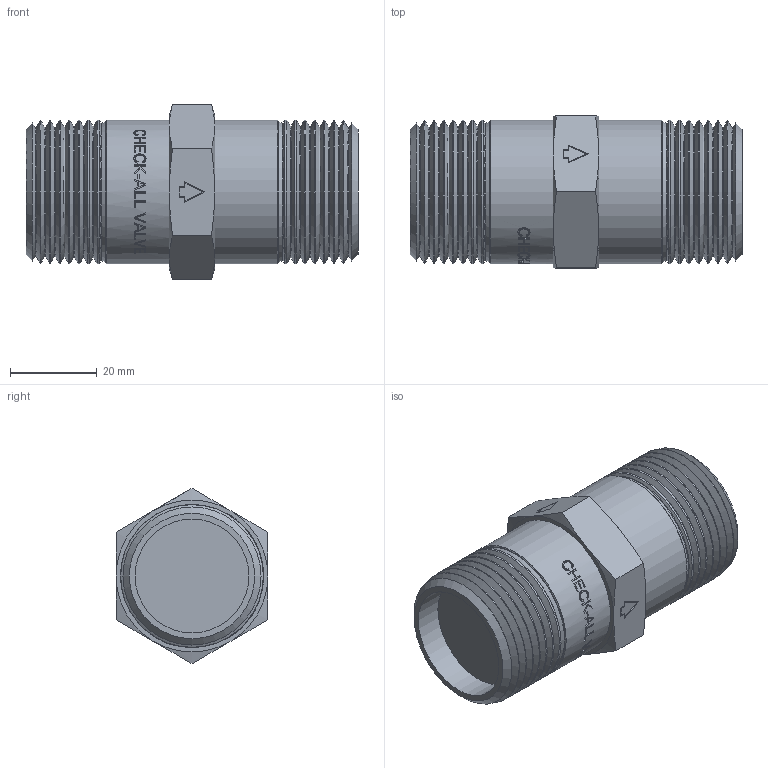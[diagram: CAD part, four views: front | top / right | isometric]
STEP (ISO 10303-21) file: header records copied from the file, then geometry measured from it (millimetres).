
FILE_DESCRIPTION( ( 'Unknown' ), '1' );
FILE_NAME( 'Y:/ENGR/Catalog & Web/3D Models for Web/CN/STEP/CNH.stp', 'Unknown', ( 'Unknown' ), ( 'Unknown' ), 'PSStep 14.0', 'Unknown', ' ' );
FILE_SCHEMA( ( 'AUTOMOTIVE_DESIGN { 1 0 10303 214 1 1 1 1 }' ) );
Length unit declared in the file: inch
Products named in the file (1): 1
Bounding box: 76.33 x 34.92 x 40.33 mm (x, y, z)
Volume: 57305.5 mm3; surface area: 13306.1 mm2
Topology: 1 solids, 1 shells, 303 faces, 749 edges, 477 vertices
Faces by surface type: plane 161, cone 50, bspline 39, cylinder 35, torus 18
Full cylindrical faces by diameter (mm): 26.187 x2, 32.918 x14
Entity records: 12375 total; most frequent: CARTESIAN_POINT 4074, ORIENTED_EDGE 1328, DIRECTION 838, EDGE_CURVE 664, VERTEX_POINT 464, B_SPLINE_CURVE_WITH_KNOTS 444, EDGE_LOOP 404, AXIS2_PLACEMENT_3D 353
